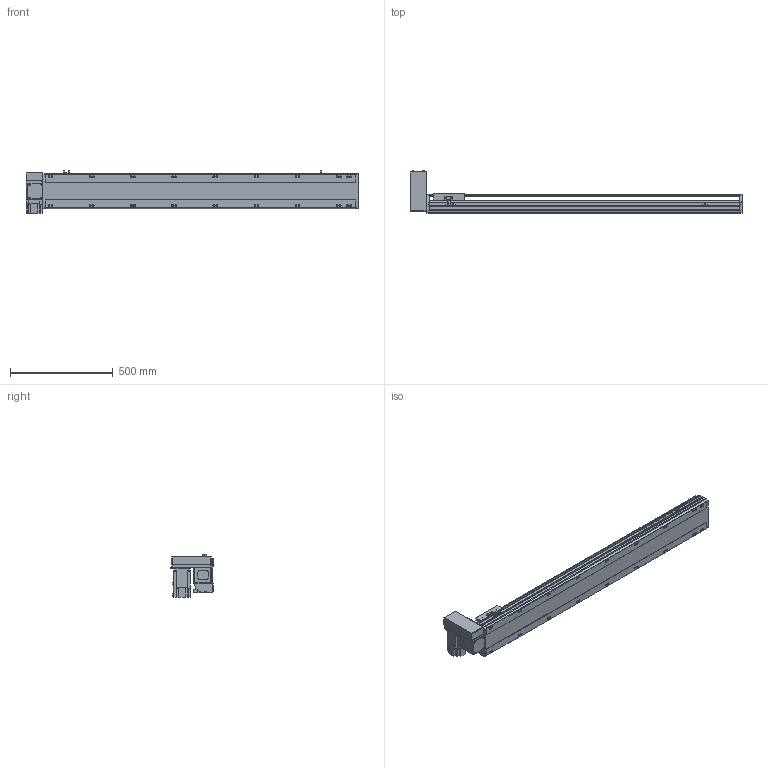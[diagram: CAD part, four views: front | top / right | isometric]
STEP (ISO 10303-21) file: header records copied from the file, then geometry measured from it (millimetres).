
FILE_DESCRIPTION( ( 'STEP AP214' ), '1' );
FILE_NAME( 'x:/temp/worker_5/temp/exporttempdir_3988_125_drp0T/format_0/PBS170-P40-S1250-RU-T75-C1-N(0).stp', '2022-06-08T05:58:26', ( 'License CC BY-ND 4.0' ), ( 'CADENAS' ), ' ', 'PARTsolutions', ' ' );
FILE_SCHEMA( ( 'AUTOMOTIVE_DESIGN { 1 0 10303 214 1 1 1 1 }' ) );
Length unit declared in the file: millimetre
Products named in the file (7): PBS170-P40-S1250-RU-T75-C1-N(0); _PBS170-S1250()_body; _PBS170T-RU_motors; _T75-p1; _PBS170_sliser; _PBS170_plant; _PBS170_sensor
Assembly tree (8 placements, depth 2):
  PBS170-P40-S1250-RU-T75-C1-N(0)
    _PBS170-S1250()_body
    _PBS170T-RU_motors
    _T75-p1
    _PBS170_sliser
    _PBS170_plant
    _PBS170_sensor  x3
Bounding box: 1613 x 206 x 205.3 mm (x, y, z)
Volume: 12769007.5 mm3; surface area: 1656160.5 mm2
Topology: 8 solids, 8 shells, 1098 faces, 2915 edges, 1900 vertices
Faces by surface type: plane 693, cylinder 347, cone 48, sphere 8, torus 2
Full cylindrical faces by diameter (mm): 3.242 x4, 4 x2, 4.4 x4, 4.5 x6, 4.917 x4, 6 x9, 6.647 x26, 7 x2, 7.5 x4, 8 x8, 8.5 x18, 10 x4, 10.5 x18, 11 x2, 30 x2, 40 x1, 70 x1
Entity records: 40382 total; most frequent: CARTESIAN_POINT 6389, DIRECTION 5370, ORIENTED_EDGE 5088, EDGE_CURVE 2544, AXIS2_PLACEMENT_3D 1867, VERTEX_POINT 1754, LINE 1636, VECTOR 1636
